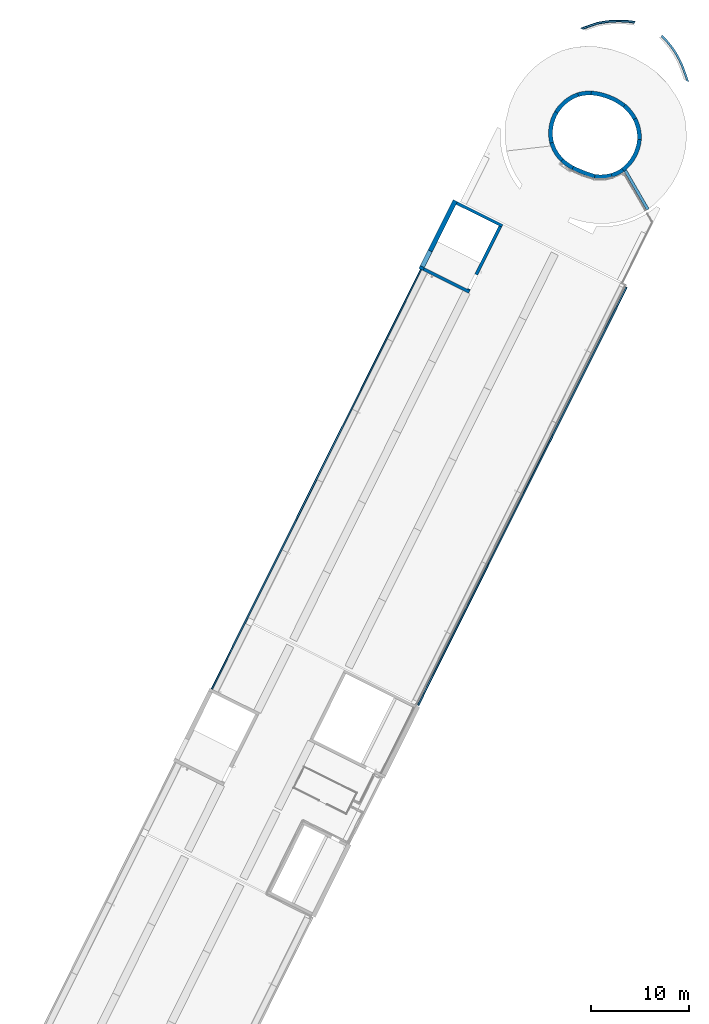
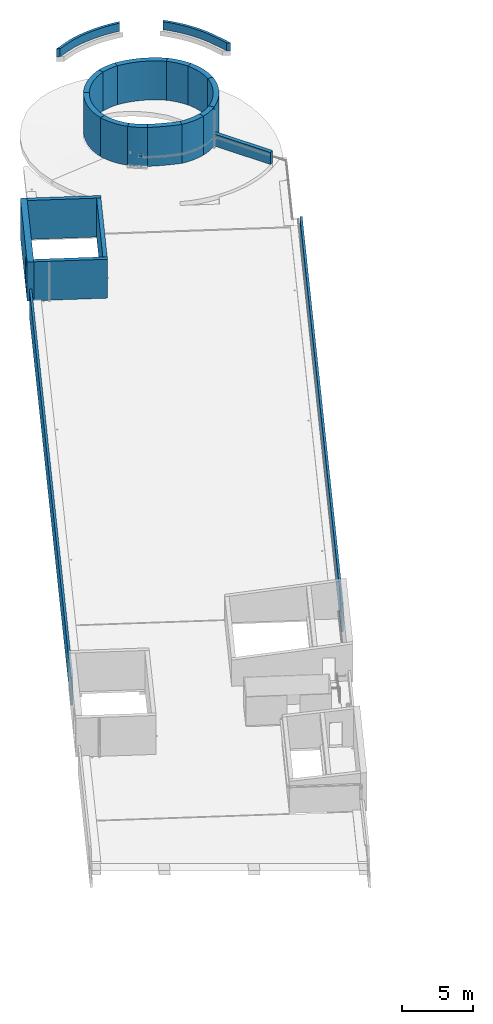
# One storey, part 6 of 34: 21 walls, 3 openings.
"""IFC2X3 building model written with IfcOpenShell, lengths in metres."""

from ifc_helpers import new_model, entity, si_unit, converted_unit, derived_unit, direction, frame, frame_2d, origin, place, context, subcontext, project, spatial, polyline, circle_curve, parameter, trimmed, segment, composite_curve, rectangle, outline, extrude, material, layer, layer_set, layer_usage, type_object, element, save


model = new_model("IFC2X3")

# Units and contexts
model_context = context("Model", 3, precision=1e-05, world=origin(), true_north=direction((0.894925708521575, 0.446215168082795)))
context_of_model = context(None, 3, precision=1e-05, world=origin(), true_north=direction((0.894925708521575, 0.446215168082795)))
body_context = subcontext(model_context, "Body", "Model", "MODEL_VIEW")
ifc_project = project(units=[si_unit("LENGTHUNIT", "METRE"), si_unit("AREAUNIT", "SQUARE_METRE"), si_unit("VOLUMEUNIT", "CUBIC_METRE"), converted_unit("PLANEANGLEUNIT", "DEGREE", entity("IfcRatioMeasure", 0.0174532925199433), si_unit("PLANEANGLEUNIT", "RADIAN"), dimensions=[0, 0, 0, 0, 0, 0, 0]), si_unit("MASSUNIT", "GRAM", prefix="KILO"), si_unit("TIMEUNIT", "SECOND"), si_unit("FREQUENCYUNIT", "HERTZ"), si_unit("THERMODYNAMICTEMPERATUREUNIT", "DEGREE_CELSIUS"), derived_unit("THERMALTRANSMITTANCEUNIT", [(si_unit("MASSUNIT", "GRAM", prefix="KILO"), 1), (si_unit("THERMODYNAMICTEMPERATUREUNIT", "KELVIN"), -1), (si_unit("TIMEUNIT", "SECOND"), -3)]), derived_unit("VOLUMETRICFLOWRATEUNIT", [(si_unit("LENGTHUNIT", "METRE"), 3), (si_unit("TIMEUNIT", "SECOND"), -1)]), si_unit("ELECTRICCURRENTUNIT", "AMPERE"), si_unit("ELECTRICVOLTAGEUNIT", "VOLT"), si_unit("POWERUNIT", "WATT"), si_unit("FORCEUNIT", "NEWTON", prefix="KILO"), si_unit("ILLUMINANCEUNIT", "LUX"), si_unit("LUMINOUSFLUXUNIT", "LUMEN"), si_unit("LUMINOUSINTENSITYUNIT", "CANDELA"), si_unit("PRESSUREUNIT", "PASCAL")], contexts=[model_context, context_of_model])

# Site, building, storey
site_placement = place(None, frame((218.228324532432, 584.720189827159, 0.0), z_axis=(0.0, 0.0, 1.0), x_axis=(0.446215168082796, 0.894925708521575, 0.0)))
site = spatial("IfcSite", under=ifc_project, at=site_placement, Name="Default", CompositionType="ELEMENT")
building_placement = place(site_placement, origin())
building = spatial("IfcBuilding", under=site, at=building_placement, CompositionType="ELEMENT")
storey_placement = place(building_placement, frame((0.0, 0.0, 8.61)))
storey = spatial("IfcBuildingStorey", under=building, at=storey_placement, Name="2 - Piano Secondo", CompositionType="ELEMENT", Elevation=8.61)

# Wall, opening
ifc_material_1 = material(Name="Alluminio")
ifc_layer_1 = layer(ifc_material_1, 0.15)
ifc_material_2 = material(Name="Default - Calcestruzzo")
ifc_layer_2 = layer(ifc_material_2, 0.3)
ifc_material_3 = material(Name="Intonaco - Bianco")
ifc_layer_3 = layer(ifc_material_3, 0.02)
ifc_layer_set_1 = layer_set([ifc_layer_1, ifc_layer_2, ifc_layer_3], Name="Muro di base:Setto CA rivestito int-est 47 cm")
ifc_layer_usage_1 = layer_usage(ifc_layer_set_1, "AXIS2", "NEGATIVE", 0.235)
wall_type_1 = type_object("IfcWallType", Name="Muro di base:Setto CA rivestito int-est 47 cm", PredefinedType="STANDARD", material=ifc_layer_set_1)
wall_1_placement = place(storey_placement, frame((51.0059369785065, 6.2239210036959, 0.0)))
wall_1 = element("IfcWallStandardCase", 1, at=wall_1_placement, inside=storey, type_object=wall_type_1, material=ifc_layer_usage_1, Name="Muro di base:Setto CA rivestito int-est 47 cm", ObjectType="Muro di base:Setto CA rivestito int-est 47 cm", context=body_context, shape_type="SweptSolid", body=[
    extrude(rectangle(XDim=7.82999999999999, YDim=0.469999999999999, at=frame_2d((3.91499999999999, 0.0), x_axis=(-1.0, 0.0))), origin(), (0.0, 0.0, 1.0), 3.34),
])
opening_1_placement = place(wall_1_placement, frame((0.319999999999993, -1.289, 0.200000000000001)))
element("IfcOpeningElement", 2, at=opening_1_placement, cuts=wall_1, Name="Muro di base:Setto CA rivestito int-est 47 cm", ObjectType="Opening", context=body_context, shape_type="SweptSolid", body=[
    extrude(rectangle(XDim=2.47, YDim=1.8, at=frame_2d((1.11022302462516e-15, 4.32986979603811e-15), x_axis=(1.0, 0.0))), frame((0.900000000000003, 0.0, 1.235), z_axis=(0.0, 1.0, 0.0), x_axis=(0.0, 0.0, -1.0)), (0.0, 0.0, 1.0), 3.048),
])

# Walls
ifc_layer_4 = layer(ifc_material_2, 0.3)
ifc_layer_5 = layer(ifc_material_3, 0.01)
ifc_layer_set_2 = layer_set([ifc_layer_4, ifc_layer_5], Name="Muro di base:Setto CA rivestito int - 31 cm")
ifc_layer_usage_2 = layer_usage(ifc_layer_set_2, "AXIS2", "NEGATIVE", 0.155)
wall_type_2 = type_object("IfcWallType", Name="Muro di base:Setto CA rivestito int - 31 cm", PredefinedType="STANDARD", material=ifc_layer_set_2)
wall_2_placement = place(storey_placement, frame((51.1609369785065, 0.798921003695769, 0.0), z_axis=(0.0, 0.0, 1.0), x_axis=(0.0, 1.0, 0.0)))
element("IfcWallStandardCase", 3, at=wall_2_placement, inside=storey, type_object=wall_type_2, material=ifc_layer_usage_2, Name="Muro di base:Setto CA rivestito int - 31 cm", ObjectType="Muro di base:Setto CA rivestito int - 31 cm", context=body_context, shape_type="SweptSolid", body=[
    extrude(rectangle(XDim=5.19000000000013, YDim=0.309999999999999, at=frame_2d((2.59500000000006, 0.0), x_axis=(-1.0, 0.0))), origin(), (0.0, 0.0, 1.0), 3.34),
])
ifc_layer_usage_3 = layer_usage(ifc_layer_set_2, "AXIS2", "NEGATIVE", 0.155)
wall_3_placement = place(storey_placement, frame((58.6809369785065, 5.9889210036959, 0.0), z_axis=(0.0, 0.0, 1.0), x_axis=(0.0, -1.0, 0.0)))
element("IfcWallStandardCase", 4, at=wall_3_placement, inside=storey, type_object=wall_type_2, material=ifc_layer_usage_3, Name="Muro di base:Setto CA rivestito int - 31 cm", ObjectType="Muro di base:Setto CA rivestito int - 31 cm", context=body_context, shape_type="SweptSolid", body=[
    extrude(rectangle(XDim=5.19000000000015, YDim=0.309999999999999, at=frame_2d((2.59500000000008, 0.0), x_axis=(-1.0, 0.0))), origin(), (0.0, 0.0, 1.0), 3.34),
])

# Wall, opening
ifc_layer_usage_4 = layer_usage(ifc_layer_set_2, "AXIS2", "NEGATIVE", 0.155)
wall_4_placement = place(storey_placement, frame((58.5259369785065, 0.953921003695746, 0.0), z_axis=(0.0, 0.0, 1.0), x_axis=(-1.0, 0.0, 0.0)))
wall_4 = element("IfcWallStandardCase", 5, at=wall_4_placement, inside=storey, type_object=wall_type_2, material=ifc_layer_usage_4, Name="Muro di base:Setto CA rivestito int - 31 cm", ObjectType="Muro di base:Setto CA rivestito int - 31 cm", context=body_context, shape_type="SweptSolid", body=[
    extrude(rectangle(XDim=7.20999999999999, YDim=0.31, at=frame_2d((3.605, 0.0), x_axis=(-1.0, 0.0))), origin(), (0.0, 0.0, 1.0), 3.34),
])
opening_2_placement = place(wall_4_placement, frame((7.08000000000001, 1.36900000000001, 0.0)))
element("IfcOpeningElement", 6, at=opening_2_placement, cuts=wall_4, Name="Muro di base:Setto CA rivestito int - 31 cm", ObjectType="Opening", context=body_context, shape_type="SweptSolid", body=[
    extrude(rectangle(XDim=2.15, YDim=1.6, at=frame_2d((0.0, 0.0), x_axis=(0.0, 1.0))), frame((-0.800000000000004, -3.04800000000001, 1.075), z_axis=(0.0, 1.0, 0.0), x_axis=(1.0, 0.0, 0.0)), (0.0, 0.0, 1.0), 3.048),
])

# Walls
ifc_layer_6 = layer(ifc_material_2, 0.3)
ifc_layer_set_3 = layer_set([ifc_layer_6], Name="Muro di base:Setto CA - 30 cm")
ifc_layer_usage_5 = layer_usage(ifc_layer_set_3, "AXIS2", "NEGATIVE", 0.15)
wall_type_3 = type_object("IfcWallType", Name="Muro di base:Setto CA - 30 cm", PredefinedType="STANDARD", material=ifc_layer_set_3)
wall_5_placement = place(storey_placement, frame((66.7670641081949, -11.7150455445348, 0.0), z_axis=(0.0, 0.0, 1.0), x_axis=(0.550824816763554, 0.834620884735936, 0.0)))
element("IfcWallStandardCase", 7, at=wall_5_placement, inside=storey, type_object=wall_type_3, material=ifc_layer_usage_5, Name="Muro di base:Setto CA - 30 cm", ObjectType="Muro di base:Setto CA - 30 cm", context=body_context, shape_type="SweptSolid", body=[
    extrude(outline(composite_curve([segment(trimmed(circle_curve(frame_2d((9.138602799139, 0.775262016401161), x_axis=(-0.990768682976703, -0.135563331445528)), 4.61232406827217), [parameter(359.999999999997)], [parameter(3.78122968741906)], True, "PARAMETER"), False, "CONTINUOUS"), segment(polyline([(4.56885655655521, 0.150000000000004), (0.0091921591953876, 0.150000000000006)]), True, "CONTINUOUS"), segment(polyline([(0.0091921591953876, 0.150000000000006), (0.0, 0.150000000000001)]), True, "CONTINUOUS"), segment(polyline([(0.0, 0.150000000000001), (0.0, -0.149999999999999)]), True, "CONTINUOUS"), segment(polyline([(0.0, -0.149999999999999), (0.0304767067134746, -0.150000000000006)]), True, "CONTINUOUS"), segment(polyline([(0.0304767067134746, -0.150000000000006), (4.62003847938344, -0.149999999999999)]), True, "CONTINUOUS")], self_intersect=False)), origin(), (0.0, 0.0, 1.0), 1.03),
])
ifc_layer_7 = layer(ifc_material_3, 0.01)
ifc_layer_8 = layer(ifc_material_2, 0.4)
ifc_layer_set_4 = layer_set([ifc_layer_7, ifc_layer_8], Name="Muro di base:Setto CA intonacato int - 41 cm")
ifc_layer_usage_6 = layer_usage(ifc_layer_set_4, "AXIS2", "POSITIVE", -0.205)
wall_type_4 = type_object("IfcWallType", Name="Muro di base:Setto CA intonacato int - 41 cm", PredefinedType="STANDARD", material=ifc_layer_set_4)
wall_6_placement = place(storey_placement, frame((72.7535282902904, -7.76748426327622, 0.0), z_axis=(0.0, 0.0, 1.0), x_axis=(-0.432595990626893, -0.901587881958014, 0.0)))
element("IfcWallStandardCase", 8, at=wall_6_placement, inside=storey, type_object=wall_type_4, material=ifc_layer_usage_6, Name="Muro di base:Setto CA intonacato int - 41 cm", ObjectType="Muro di base:Setto CA intonacato int - 41 cm", context=body_context, shape_type="SweptSolid", body=[
    extrude(outline(composite_curve([segment(trimmed(circle_curve(frame_2d((-3.01054474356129, -3.21887026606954), x_axis=(1.0, 0.0)), 4.61232406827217), [parameter(359.999999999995)], [parameter(46.9153847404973)], True, "PARAMETER"), True, "CONTINUOUS"), segment(polyline([(0.140030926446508, 0.149720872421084), (-0.133743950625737, -0.15561304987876)]), True, "CONTINUOUS"), segment(trimmed(circle_curve(frame_2d((-3.01054474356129, -3.21887026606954), x_axis=(1.0, 0.0)), 4.20232406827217), [parameter(0.114022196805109)], [parameter(46.7979049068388)], True, "PARAMETER"), False, "CONTINUOUS"), segment(polyline([(1.19177100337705, -3.21050738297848), (1.60177932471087, -3.21887026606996)]), True, "CONTINUOUS")], self_intersect=False)), origin(), (0.0, 0.0, 1.0), 3.34),
])
ifc_layer_usage_7 = layer_usage(ifc_layer_set_4, "AXIS2", "POSITIVE", -0.205)
wall_7_placement = place(storey_placement, frame((74.4408967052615, -6.4093007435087, 0.0), z_axis=(0.0, 0.0, 1.0), x_axis=(0.401751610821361, -0.91574867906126, 0.0)))
element("IfcWallStandardCase", 9, at=wall_7_placement, inside=storey, type_object=wall_type_4, material=ifc_layer_usage_7, Name="Muro di base:Setto CA intonacato int - 41 cm", ObjectType="Muro di base:Setto CA intonacato int - 41 cm", context=body_context, shape_type="SweptSolid", body=[
    extrude(outline(composite_curve([segment(trimmed(circle_curve(frame_2d((-3.6131813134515, -2.09945934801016), x_axis=(1.0, 0.0)), 4.3838525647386), [parameter(4.07110999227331e-12)], [parameter(30.1589707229)], True, "PARAMETER"), True, "CONTINUOUS"), segment(polyline([(0.177250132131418, 0.102992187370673), (-0.17501766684, -0.106839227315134)]), True, "CONTINUOUS"), segment(trimmed(circle_curve(frame_2d((-3.6131813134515, -2.09945934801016), x_axis=(1.0, 0.0)), 3.9738525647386), [parameter(0.123917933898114)], [parameter(30.0948403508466)], True, "PARAMETER"), False, "CONTINUOUS"), segment(polyline([(0.360661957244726, -2.09086480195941), (0.770671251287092, -2.09945934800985)]), True, "CONTINUOUS")], self_intersect=False)), origin(), (0.0, 0.0, 1.0), 3.34),
])
ifc_layer_usage_8 = layer_usage(ifc_layer_set_4, "AXIS2", "POSITIVE", -0.205)
wall_8_placement = place(storey_placement, frame((75.1511296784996, -4.85328415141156, 0.0), z_axis=(0.0, 0.0, 1.0), x_axis=(0.791601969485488, -0.611037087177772, 0.0)))
element("IfcWallStandardCase", 10, at=wall_8_placement, inside=storey, type_object=wall_type_4, material=ifc_layer_usage_8, Name="Muro di base:Setto CA intonacato int - 41 cm", ObjectType="Muro di base:Setto CA intonacato int - 41 cm", context=body_context, shape_type="SweptSolid", body=[
    extrude(outline(composite_curve([segment(trimmed(circle_curve(frame_2d((-4.38089045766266, -1.89996316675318), x_axis=(1.0, 0.0)), 4.98015038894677), [parameter(2.75814113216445)], [parameter(23.4460581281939)], True, "PARAMETER"), True, "CONTINUOUS"), segment(polyline([(0.188074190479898, 0.0815665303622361), (-0.18352889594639, -0.0920830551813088)]), True, "CONTINUOUS"), segment(trimmed(circle_curve(frame_2d((-4.38089045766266, -1.89996316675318), x_axis=(1.0, 0.0)), 4.57015038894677), [parameter(2.81424736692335)], [parameter(23.3024253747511)], True, "PARAMETER"), False, "CONTINUOUS"), segment(polyline([(0.183748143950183, -1.67557730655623), (0.593490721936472, -1.66031806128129)]), True, "CONTINUOUS")], self_intersect=False)), origin(), (0.0, 0.0, 1.0), 3.34),
])
ifc_layer_usage_9 = layer_usage(ifc_layer_set_4, "AXIS2", "POSITIVE", -0.205)
wall_9_placement = place(storey_placement, frame((74.802726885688, -1.26210765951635, 0.0), z_axis=(0.0, 0.0, 1.0), x_axis=(0.981627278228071, -0.190808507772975, 0.0)))
element("IfcWallStandardCase", 11, at=wall_9_placement, inside=storey, type_object=wall_type_4, material=ifc_layer_usage_9, Name="Muro di base:Setto CA intonacato int - 41 cm", ObjectType="Muro di base:Setto CA intonacato int - 41 cm", context=body_context, shape_type="SweptSolid", body=[
    extrude(outline(composite_curve([segment(trimmed(circle_curve(frame_2d((-5.35002966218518, -3.47022808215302), x_axis=(1.0, 0.0)), 6.58193502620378), [parameter(359.999999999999)], [parameter(32.9689408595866)], True, "PARAMETER"), True, "CONTINUOUS"), segment(polyline([(0.171987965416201, 0.111557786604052), (-0.16648051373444, -0.120063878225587)]), True, "CONTINUOUS"), segment(trimmed(circle_curve(frame_2d((-5.35002966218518, -3.47022808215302), x_axis=(1.0, 0.0)), 6.17193502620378), [parameter(0.107510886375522)], [parameter(32.8748697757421)], True, "PARAMETER"), False, "CONTINUOUS"), segment(polyline([(0.821894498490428, -3.458646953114), (1.2319053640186, -3.47022808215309)]), True, "CONTINUOUS")], self_intersect=False)), origin(), (0.0, 0.0, 1.0), 3.34),
])
ifc_layer_usage_10 = layer_usage(ifc_layer_set_4, "AXIS2", "POSITIVE", -0.205)
wall_10_placement = place(storey_placement, frame((74.0607317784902, -0.146360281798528, 0.0), z_axis=(0.0, 0.0, 1.0), x_axis=(0.907919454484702, 0.419144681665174, 0.0)))
element("IfcWallStandardCase", 12, at=wall_10_placement, inside=storey, type_object=wall_type_4, material=ifc_layer_usage_10, Name="Muro di base:Setto CA intonacato int - 41 cm", ObjectType="Muro di base:Setto CA intonacato int - 41 cm", context=body_context, shape_type="SweptSolid", body=[
    extrude(outline(composite_curve([segment(trimmed(circle_curve(frame_2d((-4.22179150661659, -1.33406781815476), x_axis=(1.0, 0.0)), 4.63255694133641), [parameter(7.46030906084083e-11)], [parameter(17.5363103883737)], True, "PARAMETER"), True, "CONTINUOUS"), segment(polyline([(0.195472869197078, 0.0617685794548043), (-0.192000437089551, -0.0728100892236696)]), True, "CONTINUOUS"), segment(trimmed(circle_curve(frame_2d((-4.22179150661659, -1.33406781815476), x_axis=(1.0, 0.0)), 4.22255694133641), [parameter(0.135564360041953)], [parameter(17.3792540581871)], True, "PARAMETER"), False, "CONTINUOUS"), segment(polyline([(0.000753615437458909, -1.3240770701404), (0.410765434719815, -1.33406781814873)]), True, "CONTINUOUS")], self_intersect=False)), origin(), (0.0, 0.0, 1.0), 3.34),
])
ifc_layer_usage_11 = layer_usage(ifc_layer_set_4, "AXIS2", "POSITIVE", -0.205)
wall_11_placement = place(storey_placement, frame((71.4703263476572, 1.0328184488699, 0.0), z_axis=(0.0, 0.0, 1.0), x_axis=(0.700325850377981, 0.713823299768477, 0.0)))
element("IfcWallStandardCase", 13, at=wall_11_placement, inside=storey, type_object=wall_type_4, material=ifc_layer_usage_11, Name="Muro di base:Setto CA intonacato int - 41 cm", ObjectType="Muro di base:Setto CA intonacato int - 41 cm", context=body_context, shape_type="SweptSolid", body=[
    extrude(outline(composite_curve([segment(trimmed(circle_curve(frame_2d((-3.22612707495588, -2.68645145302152), x_axis=(1.0, 0.0)), 4.40320405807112), [parameter(359.999999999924)], [parameter(39.784730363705)], True, "PARAMETER"), True, "CONTINUOUS"), segment(polyline([(0.157533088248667, 0.131180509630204), (-0.156956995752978, -0.131872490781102)]), True, "CONTINUOUS"), segment(trimmed(circle_curve(frame_2d((-3.22612707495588, -2.68645145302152), x_axis=(1.0, 0.0)), 3.99320405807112), [parameter(0.165656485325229)], [parameter(39.7718111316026)], True, "PARAMETER"), False, "CONTINUOUS"), segment(polyline([(0.767060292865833, -2.67490611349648), (1.17707698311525, -2.68645145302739)]), True, "CONTINUOUS")], self_intersect=False)), origin(), (0.0, 0.0, 1.0), 3.34),
])
ifc_layer_usage_12 = layer_usage(ifc_layer_set_4, "AXIS2", "POSITIVE", -0.205)
wall_12_placement = place(storey_placement, frame((67.3641992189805, -1.66068029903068, 0.0), z_axis=(0.0, 0.0, 1.0), x_axis=(-0.727124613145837, 0.686505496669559, 0.0)))
element("IfcWallStandardCase", 14, at=wall_12_placement, inside=storey, type_object=wall_type_4, material=ifc_layer_usage_12, Name="Muro di base:Setto CA intonacato int - 41 cm", ObjectType="Muro di base:Setto CA intonacato int - 41 cm", context=body_context, shape_type="SweptSolid", body=[
    extrude(outline(composite_curve([segment(trimmed(circle_curve(frame_2d((-3.78593377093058, -1.75768012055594), x_axis=(1.0, 0.0)), 4.37905485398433), [parameter(356.075090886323)], [parameter(24.9038369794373)], True, "PARAMETER"), True, "CONTINUOUS"), segment(polyline([(0.18593824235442, 0.086324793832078), (-0.183564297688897, -0.0914476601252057)]), True, "CONTINUOUS"), segment(trimmed(circle_curve(frame_2d((-3.78593377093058, -1.75768012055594), x_axis=(1.0, 0.0)), 3.96905485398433), [parameter(356.222668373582)], [parameter(24.8223308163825)], True, "PARAMETER"), False, "CONTINUOUS"), segment(polyline([(0.174498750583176, -2.01915799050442), (0.582850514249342, -2.05742214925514)]), True, "CONTINUOUS")], self_intersect=False)), origin(), (0.0, 0.0, 1.0), 3.34),
])

# Wall, opening
ifc_layer_usage_13 = layer_usage(ifc_layer_set_4, "AXIS2", "POSITIVE", -0.205)
wall_13_placement = place(storey_placement, frame((67.1496078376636, -3.00064880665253, 0.0), z_axis=(0.0, 0.0, 1.0), x_axis=(-0.956988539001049, 0.29012572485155, 0.0)))
wall_13 = element("IfcWallStandardCase", 15, at=wall_13_placement, inside=storey, type_object=wall_type_4, material=ifc_layer_usage_13, Name="Muro di base:Setto CA intonacato int - 41 cm", ObjectType="Muro di base:Setto CA intonacato int - 41 cm", context=body_context, shape_type="SweptSolid", body=[
    extrude(outline(composite_curve([segment(polyline([(0.197579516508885, 0.0546565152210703), (-0.195611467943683, -0.0617920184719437)]), True, "CONTINUOUS"), segment(trimmed(circle_curve(frame_2d((-4.88110562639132, -1.35026256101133), x_axis=(1.0, 0.0)), 4.85942505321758), [parameter(0.0671506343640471)], [parameter(15.3757925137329)], True, "PARAMETER"), False, "CONTINUOUS"), segment(polyline([(-0.0216839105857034, -1.34456731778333), (0.388319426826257, -1.35026256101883)]), True, "CONTINUOUS"), segment(trimmed(circle_curve(frame_2d((-4.88110562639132, -1.35026256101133), x_axis=(1.0, 0.0)), 5.26942505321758), [parameter(359.999999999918)], [parameter(15.4630661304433)], True, "PARAMETER"), True, "CONTINUOUS")], self_intersect=False)), origin(), (0.0, 0.0, 1.0), 3.34),
])
opening_3_placement = place(wall_13_placement, frame((0.277263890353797, -0.285924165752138, 0.905000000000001)))
element("IfcOpeningElement", 16, at=opening_3_placement, cuts=wall_13, Name="Muro di base:Setto CA intonacato int - 41 cm", ObjectType="Recess", context=body_context, shape_type="SweptSolid", body=[
    extrude(outline(composite_curve([segment(trimmed(circle_curve(frame_2d((-4.98307862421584, -0.900047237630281), x_axis=(1.0, 0.0)), 5.26942505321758), [parameter(9.27550415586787)], [parameter(11.2013325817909)], True, "PARAMETER"), True, "CONTINUOUS"), segment(polyline([(0.18596724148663, 0.123576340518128), (-0.216222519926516, 0.0439309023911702)]), True, "CONTINUOUS"), segment(trimmed(circle_curve(frame_2d((-4.98307862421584, -0.900047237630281), x_axis=(1.0, 0.0)), 4.85942505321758), [parameter(9.27550415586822)], [parameter(11.2013325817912)], True, "PARAMETER"), False, "CONTINUOUS"), segment(polyline([(-0.187191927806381, -0.116795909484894), (0.217447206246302, -0.050711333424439)]), True, "CONTINUOUS")], self_intersect=False)), frame((-0.175290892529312, -0.164291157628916, 0.0)), (0.0, 0.0, 1.0), 0.185827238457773),
])

# Walls
ifc_layer_usage_14 = layer_usage(ifc_layer_set_4, "AXIS2", "POSITIVE", -0.205)
wall_14_placement = place(storey_placement, frame((67.3758956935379, -5.39443917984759, 0.0), z_axis=(0.0, 0.0, 1.0), x_axis=(-0.999926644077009, -0.0121122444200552, 0.0)))
element("IfcWallStandardCase", 17, at=wall_14_placement, inside=storey, type_object=wall_type_4, material=ifc_layer_usage_14, Name="Muro di base:Setto CA intonacato int - 41 cm", ObjectType="Muro di base:Setto CA intonacato int - 41 cm", context=body_context, shape_type="SweptSolid", body=[
    extrude(outline(composite_curve([segment(trimmed(circle_curve(frame_2d((-14.5573128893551, -2.40385476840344), x_axis=(1.0, 0.0)), 14.9594527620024), [parameter(7.63333123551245e-13)], [parameter(9.37665779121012)], True, "PARAMETER"), True, "CONTINUOUS"), segment(polyline([(0.202260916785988, 0.0333994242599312), (-0.197289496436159, -0.0637043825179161)]), True, "CONTINUOUS"), segment(trimmed(circle_curve(frame_2d((-14.5573128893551, -2.40385476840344), x_axis=(1.0, 0.0)), 14.5494527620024), [parameter(0.0299347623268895)], [parameter(9.2557216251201)], True, "PARAMETER"), False, "CONTINUOUS"), segment(polyline([(-0.0078621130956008, -2.39625325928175), (0.402139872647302, -2.40385476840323)]), True, "CONTINUOUS")], self_intersect=False)), origin(), (0.0, 0.0, 1.0), 3.34),
])
ifc_layer_usage_15 = layer_usage(ifc_layer_set_4, "AXIS2", "POSITIVE", -0.205)
wall_15_placement = place(storey_placement, frame((68.2405251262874, -6.86210125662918, 0.0), z_axis=(0.0, 0.0, 1.0), x_axis=(-0.948364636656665, -0.31718214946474, 0.0)))
element("IfcWallStandardCase", 18, at=wall_15_placement, inside=storey, type_object=wall_type_4, material=ifc_layer_usage_15, Name="Muro di base:Setto CA intonacato int - 41 cm", ObjectType="Muro di base:Setto CA intonacato int - 41 cm", context=body_context, shape_type="SweptSolid", body=[
    extrude(outline(composite_curve([segment(trimmed(circle_curve(frame_2d((-3.90742253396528, -1.69614852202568), x_axis=(1.0, 0.0)), 4.4646796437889), [parameter(2.3103549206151e-11)], [parameter(23.4648800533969)], True, "PARAMETER"), True, "CONTINUOUS"), segment(polyline([(0.188047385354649, 0.0816283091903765), (-0.186482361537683, -0.0852384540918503)]), True, "CONTINUOUS"), segment(trimmed(circle_curve(frame_2d((-3.90742253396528, -1.69614852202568), x_axis=(1.0, 0.0)), 4.0546796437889), [parameter(0.419338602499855)], [parameter(23.4092786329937)], True, "PARAMETER"), False, "CONTINUOUS"), segment(polyline([(0.147148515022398, -1.66647323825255), (0.557257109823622, -1.69614852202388)]), True, "CONTINUOUS")], self_intersect=False)), origin(), (0.0, 0.0, 1.0), 3.34),
])
ifc_layer_usage_16 = layer_usage(ifc_layer_set_4, "AXIS2", "POSITIVE", -0.205)
wall_16_placement = place(storey_placement, frame((69.2546324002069, -7.63809080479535, 0.0), z_axis=(0.0, 0.0, 1.0), x_axis=(-0.730703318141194, -0.682695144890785, 0.0)))
element("IfcWallStandardCase", 19, at=wall_16_placement, inside=storey, type_object=wall_type_4, material=ifc_layer_usage_16, Name="Muro di base:Setto CA intonacato int - 41 cm", ObjectType="Muro di base:Setto CA intonacato int - 41 cm", context=body_context, shape_type="SweptSolid", body=[
    extrude(outline(composite_curve([segment(trimmed(circle_curve(frame_2d((-3.67227557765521, -1.26326947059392), x_axis=(1.0, 0.0)), 4.08848524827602), [parameter(359.999999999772)], [parameter(18.9833101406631)], True, "PARAMETER"), True, "CONTINUOUS"), segment(polyline([(0.193850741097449, 0.0666850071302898), (-0.191156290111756, -0.0745465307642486)]), True, "CONTINUOUS"), segment(trimmed(circle_curve(frame_2d((-3.67227557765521, -1.26326947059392), x_axis=(1.0, 0.0)), 3.67848524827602), [parameter(0.0610019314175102)], [parameter(18.8538671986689)], True, "PARAMETER"), False, "CONTINUOUS"), segment(polyline([(0.00620758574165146, -1.2593530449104), (0.416209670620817, -1.2632694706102)]), True, "CONTINUOUS")], self_intersect=False)), origin(), (0.0, 0.0, 1.0), 3.34),
])
ifc_layer_usage_17 = layer_usage(ifc_layer_set_4, "AXIS2", "POSITIVE", -0.205)
wall_17_placement = place(storey_placement, frame((68.4842258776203, 0.0781020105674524, 0.0)))
element("IfcWallStandardCase", 20, at=wall_17_placement, inside=storey, type_object=wall_type_4, material=ifc_layer_usage_17, Name="Muro di base:Setto CA intonacato int - 41 cm", ObjectType="Muro di base:Setto CA intonacato int - 41 cm", context=body_context, shape_type="SweptSolid", body=[
    extrude(outline(composite_curve([segment(polyline([(-0.131399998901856, 0.157350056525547), (0.139254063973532, -0.150808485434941)]), True, "CONTINUOUS"), segment(trimmed(circle_curve(frame_2d((2.66661045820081, -3.19323675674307), x_axis=(1.0, 0.0)), 3.95523705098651), [parameter(85.5962125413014)], [parameter(129.716537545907)], True, "PARAMETER"), False, "CONTINUOUS"), segment(polyline([(2.97031308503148, 0.750323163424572), (3.00278525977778, 1.15903632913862)]), True, "CONTINUOUS"), segment(trimmed(circle_curve(frame_2d((2.66661045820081, -3.19323675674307), x_axis=(1.0, 0.0)), 4.36523705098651), [parameter(85.5831751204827)], [parameter(129.864606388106)], True, "PARAMETER"), True, "CONTINUOUS")], self_intersect=False)), origin(), (0.0, 0.0, 1.0), 3.34),
])
ifc_layer_9 = layer(ifc_material_2, 0.17)
ifc_layer_set_5 = layer_set([ifc_layer_9], Name="Muro di base:Pannelli Pref - 17 cm")
ifc_layer_usage_18 = layer_usage(ifc_layer_set_5, "AXIS2", "NEGATIVE", 0.085)
wall_type_5 = type_object("IfcWallType", Name="Muro di base:Pannelli Pref - 17 cm", PredefinedType="STANDARD", material=ifc_layer_set_5)
wall_18_placement = place(storey_placement, frame((58.7159369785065, -13.2960789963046, -1.39), z_axis=(0.0, 0.0, 1.0), x_axis=(-1.0, 0.0, 0.0)))
element("IfcWallStandardCase", 21, at=wall_18_placement, inside=storey, type_object=wall_type_5, material=ifc_layer_usage_18, Name="Muro di base:Pannelli Pref - 17 cm", ObjectType="Muro di base:Pannelli Pref - 17 cm", context=body_context, shape_type="SweptSolid", body=[
    extrude(rectangle(XDim=47.5217220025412, YDim=0.17, at=frame_2d((23.7608610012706, -4.09394740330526e-16), x_axis=(-1.0, 0.0))), origin(), (0.0, 0.0, 1.0), 2.4),
])
ifc_layer_usage_19 = layer_usage(ifc_layer_set_5, "AXIS2", "NEGATIVE", 0.085)
wall_19_placement = place(storey_placement, frame((3.314214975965, 6.2139210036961, -1.39)))
element("IfcWallStandardCase", 22, at=wall_19_placement, inside=storey, type_object=wall_type_5, material=ifc_layer_usage_19, Name="Muro di base:Pannelli Pref - 17 cm", ObjectType="Muro di base:Pannelli Pref - 17 cm", context=body_context, shape_type="SweptSolid", body=[
    extrude(rectangle(XDim=47.6917220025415, YDim=0.17, at=frame_2d((23.8458610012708, 0.0), x_axis=(-1.0, 0.0))), origin(), (0.0, 0.0, 1.0), 2.4),
])
ifc_material_4 = material(Name="Calcestruzzo, gettato in opera")
wall_type_6 = type_object("IfcWallType", Name="Muri 9:Muri 9", PredefinedType="NOTDEFINED", material=ifc_material_4)
wall_20_placement = place(storey_placement, frame((80.2490524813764, -9.64432504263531, 0.340000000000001), z_axis=(0.0, 0.0, 1.0), x_axis=(0.0, 1.0, 0.0)))
element("IfcWall", 23, at=wall_20_placement, inside=storey, type_object=wall_type_6, material=ifc_material_4, Name="Muri 9:Muri 9", ObjectType="Muri 9:Muri 9", context=body_context, shape_type="SweptSolid", body=[
    extrude(outline(composite_curve([segment(trimmed(circle_curve(frame_2d((-6.80843498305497, 5.31547575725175), x_axis=(1.0, 0.0)), 9.01613750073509), [parameter(315.389318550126)], [parameter(343.07982372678)], True, "PARAMETER"), True, "CONTINUOUS"), segment(polyline([(1.81740434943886, 2.69142712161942), (1.60813493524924, 2.69142712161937)]), True, "CONTINUOUS"), segment(trimmed(circle_curve(frame_2d((-6.80843498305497, 5.31547575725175), x_axis=(1.0, 0.0)), 8.81613750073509), [parameter(315.368900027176)], [parameter(342.683997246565)], True, "PARAMETER"), False, "CONTINUOUS"), segment(trimmed(circle_curve(frame_2d((-12.9779134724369, 10.6426066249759), x_axis=(1.0, 0.0)), 16.9578390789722), [parameter(313.753555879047)], [parameter(317.20479426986)], True, "PARAMETER"), False, "CONTINUOUS"), segment(polyline([(-1.2505861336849, -1.60639740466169), (-1.2505861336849, -1.88181892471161)]), True, "CONTINUOUS"), segment(trimmed(circle_curve(frame_2d((-12.9779134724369, 10.6426066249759), x_axis=(1.0, 0.0)), 17.1578390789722), [parameter(313.117499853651)], [parameter(317.194121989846)], True, "PARAMETER"), True, "CONTINUOUS")], self_intersect=False)), frame((1.88181892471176, -1.25058613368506, 0.0), z_axis=(0.0, 0.0, 1.0), x_axis=(0.0, -1.0, 0.0)), (0.0, 0.0, 1.0), 0.690000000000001),
])
wall_type_7 = type_object("IfcWallType", Name="Muri 10:Muri 10", PredefinedType="NOTDEFINED", material=ifc_material_4)
wall_21_placement = place(storey_placement, frame((80.2490524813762, -2.01107899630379, 0.340000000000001), z_axis=(0.0, 0.0, 1.0), x_axis=(0.0, 1.0, 0.0)))
element("IfcWall", 24, at=wall_21_placement, inside=storey, type_object=wall_type_7, material=ifc_material_4, Name="Muri 10:Muri 10", ObjectType="Muri 10:Muri 10", context=body_context, shape_type="SweptSolid", body=[
    extrude(outline(composite_curve([segment(trimmed(circle_curve(frame_2d((-19.8197327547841, -18.3941264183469), x_axis=(1.0, 0.0)), 27.5004859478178), [parameter(44.3741527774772)], [parameter(47.8453373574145)], True, "PARAMETER"), True, "CONTINUOUS"), segment(polyline([(-1.36321637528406, 1.99297073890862), (-1.36321637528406, 1.72237268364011)]), True, "CONTINUOUS"), segment(trimmed(circle_curve(frame_2d((-19.8197327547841, -18.3941264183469), x_axis=(1.0, 0.0)), 27.3004859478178), [parameter(44.3909679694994)], [parameter(47.464193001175)], True, "PARAMETER"), False, "CONTINUOUS"), segment(trimmed(circle_curve(frame_2d((-7.75600542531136, -5.48863980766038), x_axis=(1.0, 0.0)), 9.68360560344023), [parameter(17.1778847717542)], [parameter(39.753943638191)], True, "PARAMETER"), False, "CONTINUOUS"), segment(polyline([(1.49563805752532, -2.62869044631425), (1.70477410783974, -2.62869044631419)]), True, "CONTINUOUS"), segment(trimmed(circle_curve(frame_2d((-7.75600542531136, -5.48863980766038), x_axis=(1.0, 0.0)), 9.88360560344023), [parameter(16.8198211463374)], [parameter(39.8010393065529)], True, "PARAMETER"), True, "CONTINUOUS")], self_intersect=False)), frame((2.62869044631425, -1.36321637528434, 0.0), z_axis=(0.0, 0.0, 1.0), x_axis=(0.0, -1.0, 0.0)), (0.0, 0.0, 1.0), 0.690000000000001),
])

save(model, "model.ifc")
